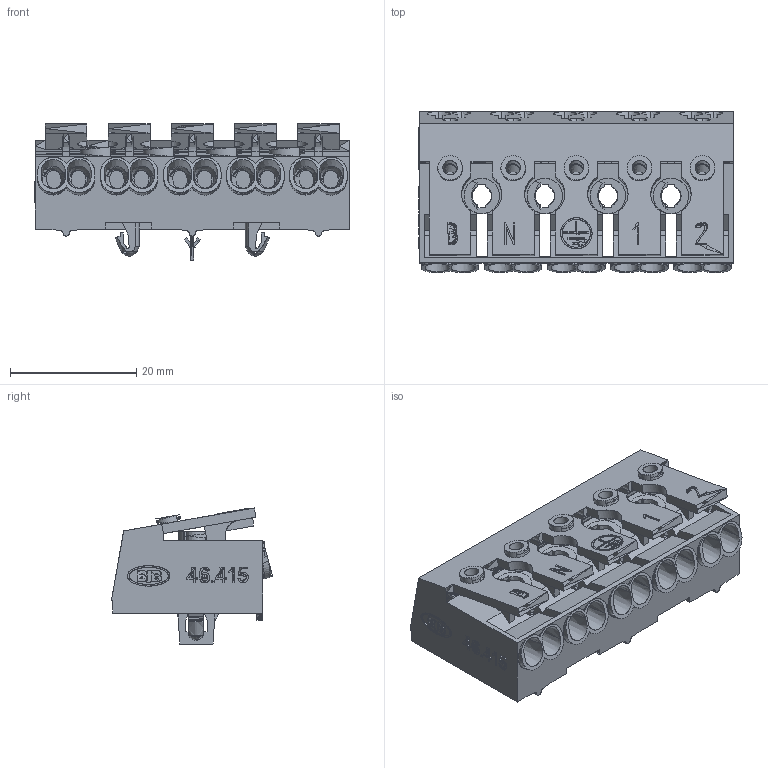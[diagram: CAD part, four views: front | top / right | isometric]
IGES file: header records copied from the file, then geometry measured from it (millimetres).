
Global section: file name: C:\coretechnologie2011\in/006YK05Y03.igs; native system: CT CoreTechnologie 3D Evolution; preprocessor: 2006; author: assmuth; date: 1110517.090712; units: millimetre
Bounding box: 49.9 x 25.55 x 21.58 mm (x, y, z)
Surface area: 9196 mm2 (no closed solid volume)
Topology: 0 solids, 0 shells, 760 faces, 3968 edges, 3879 vertices
Faces by surface type: bspline 760
